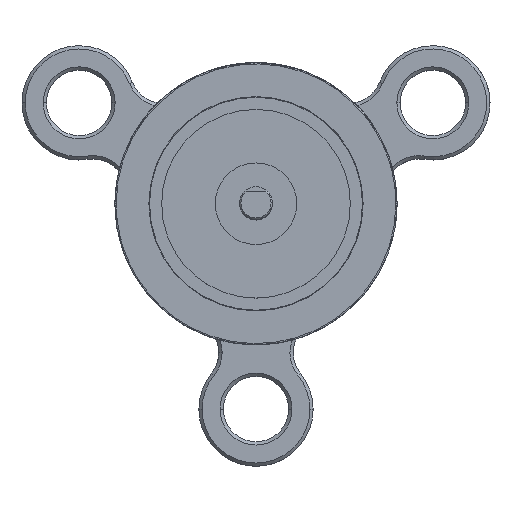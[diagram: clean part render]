
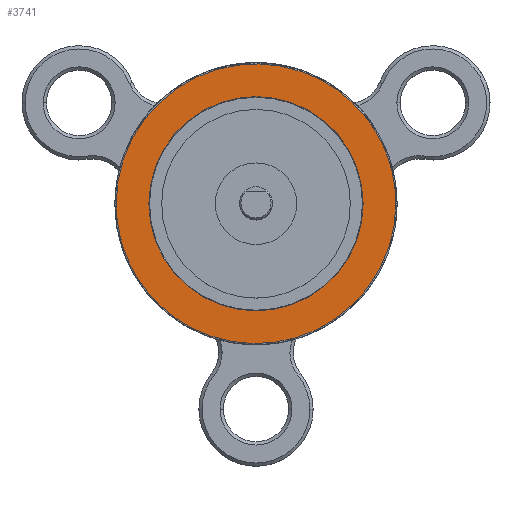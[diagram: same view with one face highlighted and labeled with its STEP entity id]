
A CAD part, top view. The second image highlights one B-rep face of the part: STEP entity #3741.
In plain terms, the highlighted planar face has unit normal (0, 0, 1).
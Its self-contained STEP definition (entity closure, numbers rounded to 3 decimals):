
#3741 = ADVANCED_FACE ( 'NONE', ( #11501, #11496 ), #53039, .T. ) ;
#4315 = AXIS2_PLACEMENT_3D ( 'NONE', #54878, #54880, #54882 ) ;
#4355 = AXIS2_PLACEMENT_3D ( 'NONE', #56016, #56018, #56020 ) ;
#4568 = VERTEX_POINT ( 'NONE', #17669 ) ;
#6351 = EDGE_LOOP ( 'NONE', ( #37141, #37198 ) ) ;
#7264 = AXIS2_PLACEMENT_3D ( 'NONE', #53037, #53041, #53042 ) ;
#11496 = FACE_BOUND ( 'NONE', #51762, .T. ) ;
#11501 = FACE_OUTER_BOUND ( 'NONE', #6351, .T. ) ;
#11968 = ORIENTED_EDGE ( 'NONE', *, *, #22874, .T. ) ;
#15499 = EDGE_CURVE ( 'NONE', #48169, #4568, #27587, .T. ) ;
#17669 = CARTESIAN_POINT ( 'NONE',  ( -2.718, 0., 0. ) ) ;
#20140 = CARTESIAN_POINT ( 'NONE',  ( 2.718, 0., 0. ) ) ;
#20144 = CARTESIAN_POINT ( 'NONE',  ( 2.718, -5.436, 0. ) ) ;
#20148 = CARTESIAN_POINT ( 'NONE',  ( -2.718, -5.436, 0. ) ) ;
#20149 = CARTESIAN_POINT ( 'NONE',  ( -2.718, 0., 0. ) ) ;
#22874 = EDGE_CURVE ( 'NONE', #47568, #37737, #34043, .T. ) ;
#23104 = EDGE_CURVE ( 'NONE', #37737, #47568, #34138, .T. ) ;
#23153 = EDGE_CURVE ( 'NONE', #4568, #48169, #28108, .T. ) ;
#27587 =( BOUNDED_CURVE ( )  B_SPLINE_CURVE ( 3, ( #20140, #20144, #20148, #20149 ),
 .UNSPECIFIED., .F., .F. ) 
 B_SPLINE_CURVE_WITH_KNOTS ( ( 4, 4 ),
 ( 0., 0.5 ),
 .UNSPECIFIED. ) 
 CURVE ( )  GEOMETRIC_REPRESENTATION_ITEM ( )  RATIONAL_B_SPLINE_CURVE ( ( 1., 0.333, 0.333, 1. ) ) 
 REPRESENTATION_ITEM ( '' )  );
#28108 =( BOUNDED_CURVE ( )  B_SPLINE_CURVE ( 3, ( #56474, #56475, #56479, #56480 ),
 .UNSPECIFIED., .F., .F. ) 
 B_SPLINE_CURVE_WITH_KNOTS ( ( 4, 4 ),
 ( 0.5, 1. ),
 .UNSPECIFIED. ) 
 CURVE ( )  GEOMETRIC_REPRESENTATION_ITEM ( )  RATIONAL_B_SPLINE_CURVE ( ( 1., 0.333, 0.333, 1. ) ) 
 REPRESENTATION_ITEM ( '' )  );
#34043 = CIRCLE ( 'NONE', #4315, 2.083 ) ;
#34138 = CIRCLE ( 'NONE', #4355, 2.083 ) ;
#37141 = ORIENTED_EDGE ( 'NONE', *, *, #15499, .F. ) ;
#37198 = ORIENTED_EDGE ( 'NONE', *, *, #23153, .F. ) ;
#37371 = ORIENTED_EDGE ( 'NONE', *, *, #23104, .T. ) ;
#37737 = VERTEX_POINT ( 'NONE', #43113 ) ;
#43113 = CARTESIAN_POINT ( 'NONE',  ( -2.083, 0., 0. ) ) ;
#47568 = VERTEX_POINT ( 'NONE', #50045 ) ;
#48169 = VERTEX_POINT ( 'NONE', #50126 ) ;
#50045 = CARTESIAN_POINT ( 'NONE',  ( 2.083, 0., 0. ) ) ;
#50126 = CARTESIAN_POINT ( 'NONE',  ( 2.718, 0., 0. ) ) ;
#51762 = EDGE_LOOP ( 'NONE', ( #11968, #37371 ) ) ;
#53037 = CARTESIAN_POINT ( 'NONE',  ( 2.07, 0., 0. ) ) ;
#53039 = PLANE ( 'NONE',  #7264 ) ;
#53041 = DIRECTION ( 'NONE',  ( 0., 0., 1. ) ) ;
#53042 = DIRECTION ( 'NONE',  ( 1., 0., 0. ) ) ;
#54878 = CARTESIAN_POINT ( 'NONE',  ( 0., 0., 0. ) ) ;
#54880 = DIRECTION ( 'NONE',  ( 0., 0., -1. ) ) ;
#54882 = DIRECTION ( 'NONE',  ( 1., 0., 0. ) ) ;
#56016 = CARTESIAN_POINT ( 'NONE',  ( 0., 0., 0. ) ) ;
#56018 = DIRECTION ( 'NONE',  ( 0., 0., -1. ) ) ;
#56020 = DIRECTION ( 'NONE',  ( 1., 0., 0. ) ) ;
#56474 = CARTESIAN_POINT ( 'NONE',  ( -2.718, 0., 0. ) ) ;
#56475 = CARTESIAN_POINT ( 'NONE',  ( -2.718, 5.436, 0. ) ) ;
#56479 = CARTESIAN_POINT ( 'NONE',  ( 2.718, 5.436, 0. ) ) ;
#56480 = CARTESIAN_POINT ( 'NONE',  ( 2.718, 0., 0. ) ) ;
